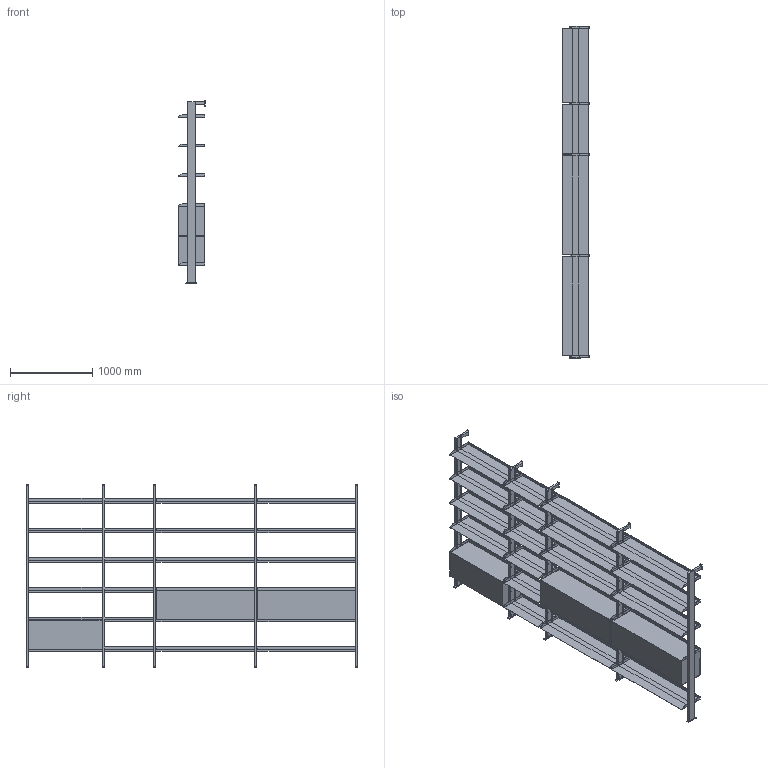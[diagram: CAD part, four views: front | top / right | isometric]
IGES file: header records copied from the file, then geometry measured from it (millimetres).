
Start section: Comment
Global section: file name: Regal - 2200 x 3900 - Wand.igs; native system:  By UGS Corp.; preprocessor: XPlus GENERIC/IGES 3.0; author: Author; organization: Title; date: 20170123.130424; units: inch
Bounding box: 325.1 x 4025 x 2226 mm (x, y, z)
Surface area: 27529320.4 mm2 (no closed solid volume)
Topology: 0 solids, 0 shells, 999 faces, 4992 edges, 4992 vertices
Faces by surface type: bspline 999
